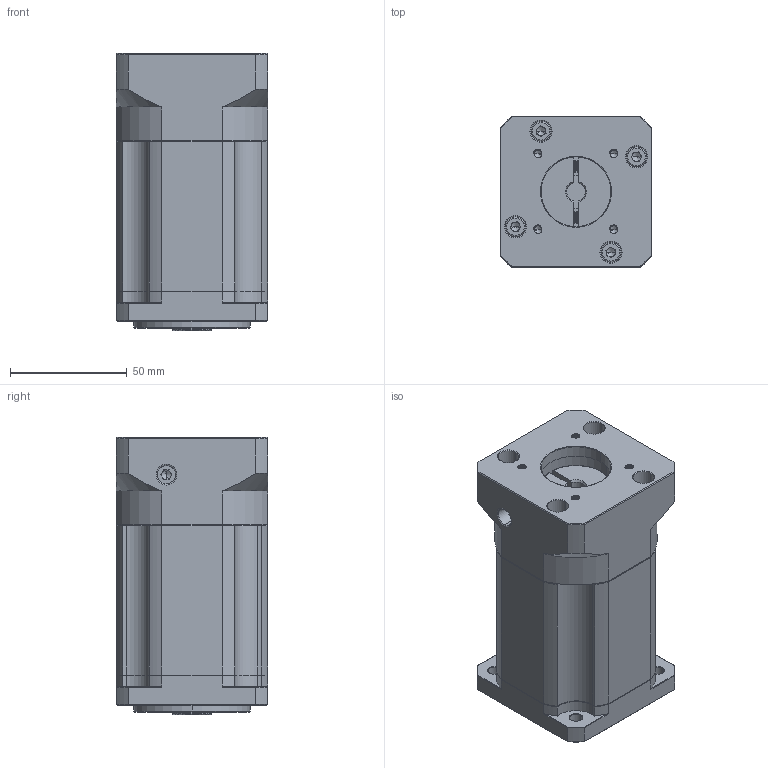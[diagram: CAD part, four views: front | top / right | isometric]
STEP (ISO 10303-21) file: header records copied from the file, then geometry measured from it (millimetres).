
FILE_DESCRIPTION (( 'STEP AP214' ), '1' );
FILE_NAME ('ZB060-K10-L3-P2-8-30-46-M4.step', '2023-08-16T07:13:43', ( '' ), ( '' ), 'SwSTEP 2.0', 'SolidWorks 2016', '' );
FILE_SCHEMA (( 'AUTOMOTIVE_DESIGN' ));
Length unit declared in the file: millimetre
Products named in the file (1): ZB060-K10-L3-P2-8-30-46-M4
Bounding box: 65 x 65 x 119 mm (x, y, z)
Volume: 390153.8 mm3; surface area: 61920 mm2
Topology: 6 solids, 6 shells, 2101 faces, 5654 edges, 3644 vertices
Faces by surface type: plane 1056, bspline 390, cylinder 342, cone 279, torus 34
Entity records: 108962 total; most frequent: CARTESIAN_POINT 35964, ORIENTED_EDGE 11252, DIRECTION 8948, EDGE_CURVE 5626, VERTEX_POINT 3644, VECTOR 3584, LINE 3584, AXIS2_PLACEMENT_3D 2682
